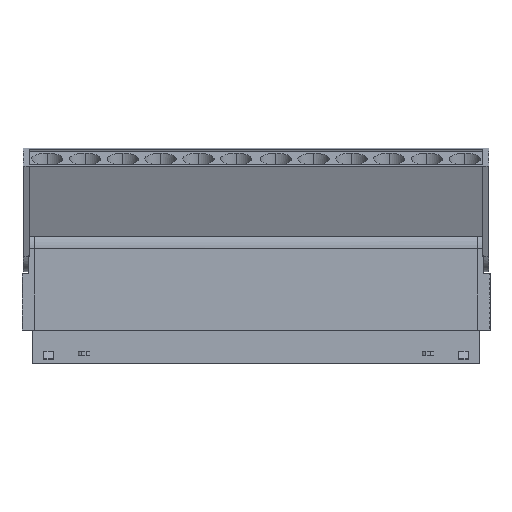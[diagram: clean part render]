
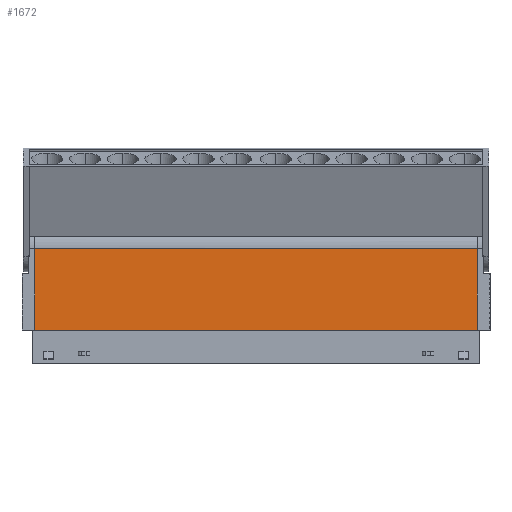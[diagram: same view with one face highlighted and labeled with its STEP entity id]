
A CAD part, left-side view. The second image highlights one B-rep face of the part: STEP entity #1672.
In plain terms, the highlighted planar face has unit normal (-1, 0, 0).
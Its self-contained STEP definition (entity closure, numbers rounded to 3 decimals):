
#1672=ADVANCED_FACE('',(#3790),#32991,.T.);
#3790=FACE_OUTER_BOUND('',#6088,.T.);
#6088=EDGE_LOOP('',(#13622,#13623,#13624,#13625));
#13622=ORIENTED_EDGE('',*,*,#20877,.T.);
#13623=ORIENTED_EDGE('',*,*,#20870,.F.);
#13624=ORIENTED_EDGE('',*,*,#20878,.T.);
#13625=ORIENTED_EDGE('',*,*,#20875,.F.);
#20870=EDGE_CURVE('',#30313,#30310,#26346,.T.);
#20875=EDGE_CURVE('',#30316,#30317,#26350,.T.);
#20877=EDGE_CURVE('',#30316,#30310,#26351,.T.);
#20878=EDGE_CURVE('',#30313,#30317,#26352,.T.);
#26346=B_SPLINE_CURVE_WITH_KNOTS('',1,(#48083,#48084),.UNSPECIFIED.,.F.,
 .F.,(2,2),(-211.,0.),.UNSPECIFIED.);
#26350=B_SPLINE_CURVE_WITH_KNOTS('',1,(#48096,#48097),.UNSPECIFIED.,.F.,
 .F.,(2,2),(0.,211.),.UNSPECIFIED.);
#26351=B_SPLINE_CURVE_WITH_KNOTS('',1,(#48103,#48104),.UNSPECIFIED.,.F.,
 .F.,(2,2),(0.,39.),.UNSPECIFIED.);
#26352=B_SPLINE_CURVE_WITH_KNOTS('',1,(#48105,#48106),.UNSPECIFIED.,.F.,
 .F.,(2,2),(-39.,0.),.UNSPECIFIED.);
#30310=VERTEX_POINT('',#48069);
#30313=VERTEX_POINT('',#48072);
#30316=VERTEX_POINT('',#48075);
#30317=VERTEX_POINT('',#48076);
#32991=PLANE('',#35092);
#35092=AXIS2_PLACEMENT_3D('',#48066,#37189,$);
#37189=DIRECTION('',(-1.,0.,0.));
#48066=CARTESIAN_POINT('',(1346.825,42.903,1.387));
#48069=CARTESIAN_POINT('',(1346.825,42.893,1.397));
#48072=CARTESIAN_POINT('',(1346.825,-168.107,1.397));
#48075=CARTESIAN_POINT('',(1346.825,42.893,40.397));
#48076=CARTESIAN_POINT('',(1346.825,-168.107,40.397));
#48083=CARTESIAN_POINT('',(1346.825,-168.107,1.397));
#48084=CARTESIAN_POINT('',(1346.825,42.893,1.397));
#48096=CARTESIAN_POINT('',(1346.825,42.893,40.397));
#48097=CARTESIAN_POINT('',(1346.825,-168.107,40.397));
#48103=CARTESIAN_POINT('',(1346.825,42.893,40.397));
#48104=CARTESIAN_POINT('',(1346.825,42.893,1.397));
#48105=CARTESIAN_POINT('',(1346.825,-168.107,1.397));
#48106=CARTESIAN_POINT('',(1346.825,-168.107,40.397));
